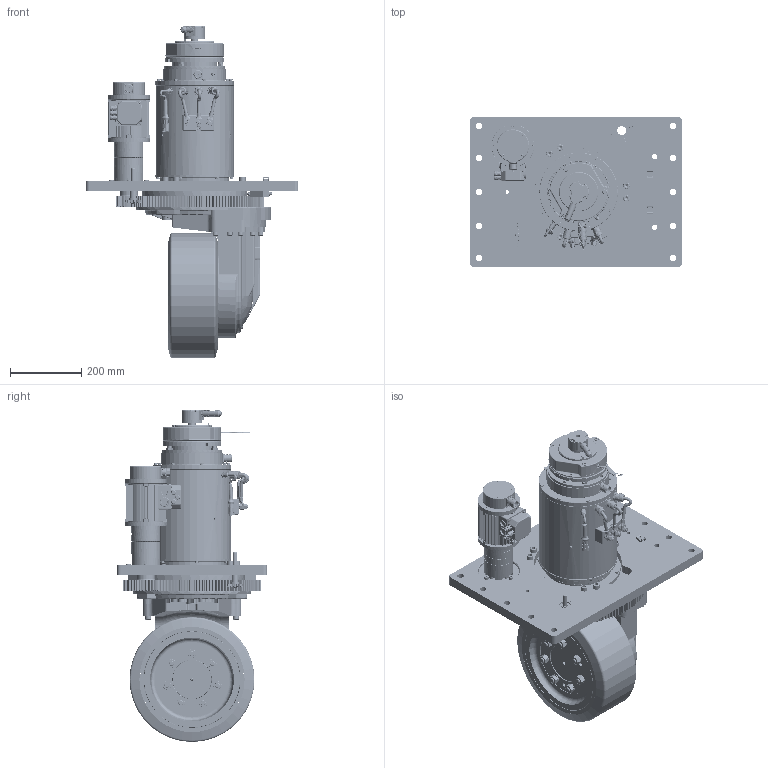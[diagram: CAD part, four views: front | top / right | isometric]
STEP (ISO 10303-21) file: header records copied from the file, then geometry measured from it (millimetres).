
FILE_DESCRIPTION(/* description */ (''),/* implementation_level */ '2;1');
FILE_NAME(/* name */ 'C:\Users\marco bosi\Desktop\WR350FMS-BL-D.200.stp',/* time_stamp */ '2023-09-21T14:45:05+02:00',/* author */ ('marco bosi'),/* organization */ (''),/* preprocessor_version */ 'ST-DEVELOPER v18.1',/* originating_system */ 'Autodesk Inventor 2022',/* authorisation */ '');
FILE_SCHEMA (('AUTOMOTIVE_DESIGN { 1 0 10303 214 3 1 1 }'));
Length unit declared in the file: millimetre
Products named in the file (1): WR350FMS20-D.200+piastra e sterzo BL_Semplifica_1
Bounding box: 595 x 420 x 930.1 mm (x, y, z)
Volume: 28344737.9 mm3; surface area: 3776010.2 mm2
Topology: 5 solids, 19 shells, 13597 faces, 35893 edges, 23429 vertices
Faces by surface type: plane 8413, cylinder 2989, cone 997, bspline 738, torus 412, sphere 48
Full cylindrical faces by diameter (mm): 0.9 x24, 1.5 x2, 1.7 x2, 1.88 x2, 2 x2, 2.013 x4, 2.459 x19, 2.5 x2, 2.7 x4, 2.75 x2, 2.9 x2, 3 x6, 3.2 x4, 3.242 x10, 4 x9, 4.134 x4, 4.5 x10, 4.8 x8, 4.917 x35, 5 x6, 6 x22, 6.3 x2, 6.4 x16, 6.5 x23, 6.6 x9, 6.647 x20, 7 x14, 7.5 x9, 8 x29, 8.2 x3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
Entity records: 478615 total; most frequent: CARTESIAN_POINT 129472, ORIENTED_EDGE 71333, DIRECTION 68572, EDGE_CURVE 35688, AXIS2_PLACEMENT_3D 24374, VERTEX_POINT 23427, LINE 19824, VECTOR 19824
